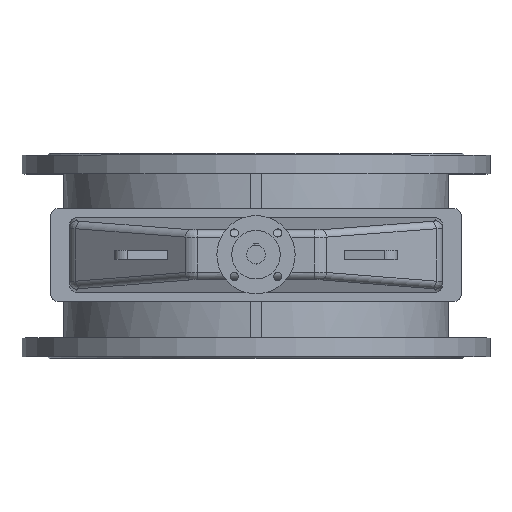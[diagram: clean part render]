
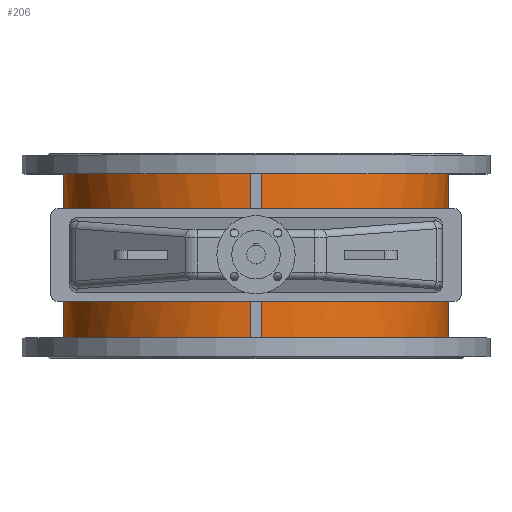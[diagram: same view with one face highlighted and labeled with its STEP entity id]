
A CAD part, top view. The second image highlights one B-rep face of the part: STEP entity #206.
In plain terms, the highlighted cylindrical face has radius 516 mm (diameter 1032 mm), a partial arc.
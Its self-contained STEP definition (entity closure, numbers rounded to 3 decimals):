
#206=ADVANCED_FACE('',(#2601,#2603),#2605,.T.);
#2601=FACE_BOUND('',#2602,.T.);
#2602=EDGE_LOOP('',(#7065,#7066,#7067,#7068,#7069,#7070,#7071,#7072,#7073,#7074,
#7075,#7076));
#2603=FACE_BOUND('',#2604,.T.);
#2604=EDGE_LOOP('',(#7077,#7078,#7079,#7080,#7081,#7082));
#2605=CYLINDRICAL_SURFACE('',#2606,516.);
#2606=AXIS2_PLACEMENT_3D('',#2607,#2608,#2609);
#2607=CARTESIAN_POINT('',(0.,-220.,0.));
#2608=DIRECTION('',(0.,1.,0.));
#2609=DIRECTION('',(0.,0.,1.));
#7065=ORIENTED_EDGE('',*,*,#8226,.F.);
#7066=ORIENTED_EDGE('',*,*,#8221,.F.);
#7067=ORIENTED_EDGE('',*,*,#8227,.F.);
#7068=ORIENTED_EDGE('',*,*,#8228,.F.);
#7069=ORIENTED_EDGE('',*,*,#8229,.F.);
#7070=ORIENTED_EDGE('',*,*,#8230,.F.);
#7071=ORIENTED_EDGE('',*,*,#8231,.F.);
#7072=ORIENTED_EDGE('',*,*,#8232,.F.);
#7073=ORIENTED_EDGE('',*,*,#8165,.F.);
#7074=ORIENTED_EDGE('',*,*,#8225,.F.);
#7075=ORIENTED_EDGE('',*,*,#8233,.F.);
#7076=ORIENTED_EDGE('',*,*,#8234,.T.);
#7077=ORIENTED_EDGE('',*,*,#8235,.T.);
#7078=ORIENTED_EDGE('',*,*,#8236,.F.);
#7079=ORIENTED_EDGE('',*,*,#8237,.F.);
#7080=ORIENTED_EDGE('',*,*,#8238,.F.);
#7081=ORIENTED_EDGE('',*,*,#8239,.F.);
#7082=ORIENTED_EDGE('',*,*,#8240,.F.);
#8165=EDGE_CURVE('',#8762,#8764,#8765,.T.);
#8221=EDGE_CURVE('',#8858,#8860,#8861,.T.);
#8225=EDGE_CURVE('',#8866,#8762,#8868,.T.);
#8226=EDGE_CURVE('',#8860,#8869,#8870,.F.);
#8227=EDGE_CURVE('',#8871,#8858,#8872,.F.);
#8228=EDGE_CURVE('',#8873,#8871,#8874,.F.);
#8229=EDGE_CURVE('',#8875,#8873,#8876,.F.);
#8230=EDGE_CURVE('',#8877,#8875,#8878,.T.);
#8231=EDGE_CURVE('',#8879,#8877,#8880,.T.);
#8232=EDGE_CURVE('',#8764,#8879,#8881,.F.);
#8233=EDGE_CURVE('',#8882,#8866,#8883,.T.);
#8234=EDGE_CURVE('',#8882,#8869,#8884,.T.);
#8235=EDGE_CURVE('',#8885,#8886,#8887,.T.);
#8236=EDGE_CURVE('',#8888,#8886,#8889,.F.);
#8237=EDGE_CURVE('',#8890,#8888,#8891,.F.);
#8238=EDGE_CURVE('',#8892,#8890,#8893,.T.);
#8239=EDGE_CURVE('',#8894,#8892,#8895,.T.);
#8240=EDGE_CURVE('',#8885,#8894,#8896,.T.);
#8762=VERTEX_POINT('',#9782);
#8764=VERTEX_POINT('',#9786);
#8765=LINE('',#9787,#9788);
#8858=VERTEX_POINT('',#10008);
#8860=VERTEX_POINT('',#10012);
#8861=(BOUNDED_CURVE()B_SPLINE_CURVE(3,
(#10013,#10014,#10015,#10016),
.UNSPECIFIED.,.F.,.F.)B_SPLINE_CURVE_WITH_KNOTS((4,4),
(0.,1.),
.UNSPECIFIED.)CURVE()GEOMETRIC_REPRESENTATION_ITEM()RATIONAL_B_SPLINE_CURVE((1.,
0.865,0.865,1.))REPRESENTATION_ITEM(''));
#8866=VERTEX_POINT('',#10025);
#8868=(BOUNDED_CURVE()B_SPLINE_CURVE(3,
(#10029,#10030,#10031,#10032),
.UNSPECIFIED.,.F.,.F.)B_SPLINE_CURVE_WITH_KNOTS((4,4),
(0.,1.),
.UNSPECIFIED.)CURVE()GEOMETRIC_REPRESENTATION_ITEM()RATIONAL_B_SPLINE_CURVE((1.,
0.865,0.865,1.))REPRESENTATION_ITEM(''));
#8869=VERTEX_POINT('',#10033);
#8870=LINE('',#10034,#10035);
#8871=VERTEX_POINT('',#10037);
#8872=LINE('',#10038,#10039);
#8873=VERTEX_POINT('',#10041);
#8874=(BOUNDED_CURVE()B_SPLINE_CURVE(3,
(#10042,#10043,#10044,#10045),
.UNSPECIFIED.,.F.,.F.)B_SPLINE_CURVE_WITH_KNOTS((4,4),
(0.,1.),
.UNSPECIFIED.)CURVE()GEOMETRIC_REPRESENTATION_ITEM()RATIONAL_B_SPLINE_CURVE((1.,
0.865,0.865,1.))REPRESENTATION_ITEM(''));
#8875=VERTEX_POINT('',#10046);
#8876=LINE('',#10047,#10048);
#8877=VERTEX_POINT('',#10050);
#8878=CIRCLE('',#10051,516.);
#8879=VERTEX_POINT('',#10055);
#8880=LINE('',#10056,#10057);
#8881=(BOUNDED_CURVE()B_SPLINE_CURVE(3,
(#10059,#10060,#10061,#10062),
.UNSPECIFIED.,.F.,.F.)B_SPLINE_CURVE_WITH_KNOTS((4,4),
(0.,1.),
.UNSPECIFIED.)CURVE()GEOMETRIC_REPRESENTATION_ITEM()RATIONAL_B_SPLINE_CURVE((1.,
0.865,0.865,1.))REPRESENTATION_ITEM(''));
#8882=VERTEX_POINT('',#10063);
#8883=LINE('',#10064,#10065);
#8884=CIRCLE('',#10067,516.);
#8885=VERTEX_POINT('',#10071);
#8886=VERTEX_POINT('',#10072);
#8887=LINE('',#10073,#10074);
#8888=VERTEX_POINT('',#10076);
#8889=(BOUNDED_CURVE()B_SPLINE_CURVE(3,
(#10077,#10078,#10079,#10080),
.UNSPECIFIED.,.F.,.F.)B_SPLINE_CURVE_WITH_KNOTS((4,4),
(0.,1.),
.UNSPECIFIED.)CURVE()GEOMETRIC_REPRESENTATION_ITEM()RATIONAL_B_SPLINE_CURVE((1.,
0.86,0.86,1.))REPRESENTATION_ITEM(''));
#8890=VERTEX_POINT('',#10081);
#8891=(BOUNDED_CURVE()B_SPLINE_CURVE(3,
(#10082,#10083,#10084,#10085),
.UNSPECIFIED.,.F.,.F.)B_SPLINE_CURVE_WITH_KNOTS((4,4),
(0.,1.),
.UNSPECIFIED.)CURVE()GEOMETRIC_REPRESENTATION_ITEM()RATIONAL_B_SPLINE_CURVE((1.,
0.86,0.86,1.))REPRESENTATION_ITEM(''));
#8892=VERTEX_POINT('',#10086);
#8893=LINE('',#10087,#10088);
#8894=VERTEX_POINT('',#10090);
#8895=(BOUNDED_CURVE()B_SPLINE_CURVE(3,
(#10091,#10092,#10093,#10094),
.UNSPECIFIED.,.F.,.F.)B_SPLINE_CURVE_WITH_KNOTS((4,4),
(0.,1.),
.UNSPECIFIED.)CURVE()GEOMETRIC_REPRESENTATION_ITEM()RATIONAL_B_SPLINE_CURVE((1.,
0.86,0.86,1.))REPRESENTATION_ITEM(''));
#8896=(BOUNDED_CURVE()B_SPLINE_CURVE(3,
(#10095,#10096,#10097,#10098),
.UNSPECIFIED.,.F.,.F.)B_SPLINE_CURVE_WITH_KNOTS((4,4),
(0.,1.),
.UNSPECIFIED.)CURVE()GEOMETRIC_REPRESENTATION_ITEM()RATIONAL_B_SPLINE_CURVE((1.,
0.86,0.86,1.))REPRESENTATION_ITEM(''));
#9782=CARTESIAN_POINT('',(500.,-83.31,127.499));
#9786=CARTESIAN_POINT('',(500.,83.31,127.499));
#9787=CARTESIAN_POINT('',(500.,-83.31,127.499));
#9788=VECTOR('',#9789,1.);
#9789=DIRECTION('',(0.,1.,0.));
#10008=CARTESIAN_POINT('',(-500.,-83.31,127.499));
#10012=CARTESIAN_POINT('',(-14.,-88.324,515.81));
#10013=CARTESIAN_POINT('',(-500.,-83.31,127.499));
#10014=CARTESIAN_POINT('',(-440.785,-86.308,359.716));
#10015=CARTESIAN_POINT('',(-253.56,-88.24,509.308));
#10016=CARTESIAN_POINT('',(-14.,-88.324,515.81));
#10025=CARTESIAN_POINT('',(14.,-88.324,515.81));
#10029=CARTESIAN_POINT('',(14.,-88.324,515.81));
#10030=CARTESIAN_POINT('',(253.56,-88.24,509.308));
#10031=CARTESIAN_POINT('',(440.785,-86.308,359.716));
#10032=CARTESIAN_POINT('',(500.,-83.31,127.499));
#10033=CARTESIAN_POINT('',(-14.,-220.,515.81));
#10034=CARTESIAN_POINT('',(-14.,-220.,515.81));
#10035=VECTOR('',#10036,1.);
#10036=DIRECTION('',(0.,1.,0.));
#10037=CARTESIAN_POINT('',(-500.,83.31,127.499));
#10038=CARTESIAN_POINT('',(-500.,-83.31,127.499));
#10039=VECTOR('',#10040,1.);
#10040=DIRECTION('',(0.,1.,0.));
#10041=CARTESIAN_POINT('',(-14.,88.324,515.81));
#10042=CARTESIAN_POINT('',(-500.,83.31,127.499));
#10043=CARTESIAN_POINT('',(-440.785,86.308,359.716));
#10044=CARTESIAN_POINT('',(-253.56,88.24,509.308));
#10045=CARTESIAN_POINT('',(-14.,88.324,515.81));
#10046=CARTESIAN_POINT('',(-14.,220.,515.81));
#10047=CARTESIAN_POINT('',(-14.,88.324,515.81));
#10048=VECTOR('',#10049,1.);
#10049=DIRECTION('',(0.,1.,0.));
#10050=CARTESIAN_POINT('',(14.,220.,515.81));
#10051=AXIS2_PLACEMENT_3D('',#10052,#10053,#10054);
#10052=CARTESIAN_POINT('',(0.,220.,0.));
#10053=DIRECTION('',(0.,1.,0.));
#10054=DIRECTION('',(0.027,0.,1.));
#10055=CARTESIAN_POINT('',(14.,88.324,515.81));
#10056=CARTESIAN_POINT('',(14.,88.324,515.81));
#10057=VECTOR('',#10058,1.);
#10058=DIRECTION('',(0.,1.,0.));
#10059=CARTESIAN_POINT('',(14.,88.324,515.81));
#10060=CARTESIAN_POINT('',(253.56,88.24,509.308));
#10061=CARTESIAN_POINT('',(440.785,86.308,359.716));
#10062=CARTESIAN_POINT('',(500.,83.31,127.499));
#10063=CARTESIAN_POINT('',(14.,-220.,515.81));
#10064=CARTESIAN_POINT('',(14.,-220.,515.81));
#10065=VECTOR('',#10066,1.);
#10066=DIRECTION('',(0.,1.,0.));
#10067=AXIS2_PLACEMENT_3D('',#10068,#10069,#10070);
#10068=CARTESIAN_POINT('',(0.,-220.,0.));
#10069=DIRECTION('',(0.,1.,0.));
#10070=DIRECTION('',(0.027,0.,1.));
#10071=CARTESIAN_POINT('',(500.,-80.017,-127.499));
#10072=CARTESIAN_POINT('',(500.,80.017,-127.499));
#10073=CARTESIAN_POINT('',(500.,-80.017,-127.499));
#10074=VECTOR('',#10075,1.);
#10075=DIRECTION('',(0.,1.,0.));
#10076=CARTESIAN_POINT('',(0.,75.,-516.));
#10077=CARTESIAN_POINT('',(500.,80.017,-127.499));
#10078=CARTESIAN_POINT('',(439.342,76.945,-365.377));
#10079=CARTESIAN_POINT('',(245.49,75.,-516.));
#10080=CARTESIAN_POINT('',(0.,75.,-516.));
#10081=CARTESIAN_POINT('',(-500.,80.017,-127.499));
#10082=CARTESIAN_POINT('',(0.,75.,-516.));
#10083=CARTESIAN_POINT('',(-245.49,75.,-516.));
#10084=CARTESIAN_POINT('',(-439.342,76.945,-365.377));
#10085=CARTESIAN_POINT('',(-500.,80.017,-127.499));
#10086=CARTESIAN_POINT('',(-500.,-80.017,-127.499));
#10087=CARTESIAN_POINT('',(-500.,-80.017,-127.499));
#10088=VECTOR('',#10089,1.);
#10089=DIRECTION('',(0.,1.,0.));
#10090=CARTESIAN_POINT('',(0.,-75.,-516.));
#10091=CARTESIAN_POINT('',(0.,-75.,-516.));
#10092=CARTESIAN_POINT('',(-245.49,-75.,-516.));
#10093=CARTESIAN_POINT('',(-439.342,-76.945,-365.377));
#10094=CARTESIAN_POINT('',(-500.,-80.017,-127.499));
#10095=CARTESIAN_POINT('',(500.,-80.017,-127.499));
#10096=CARTESIAN_POINT('',(439.342,-76.945,-365.377));
#10097=CARTESIAN_POINT('',(245.49,-75.,-516.));
#10098=CARTESIAN_POINT('',(0.,-75.,-516.));
